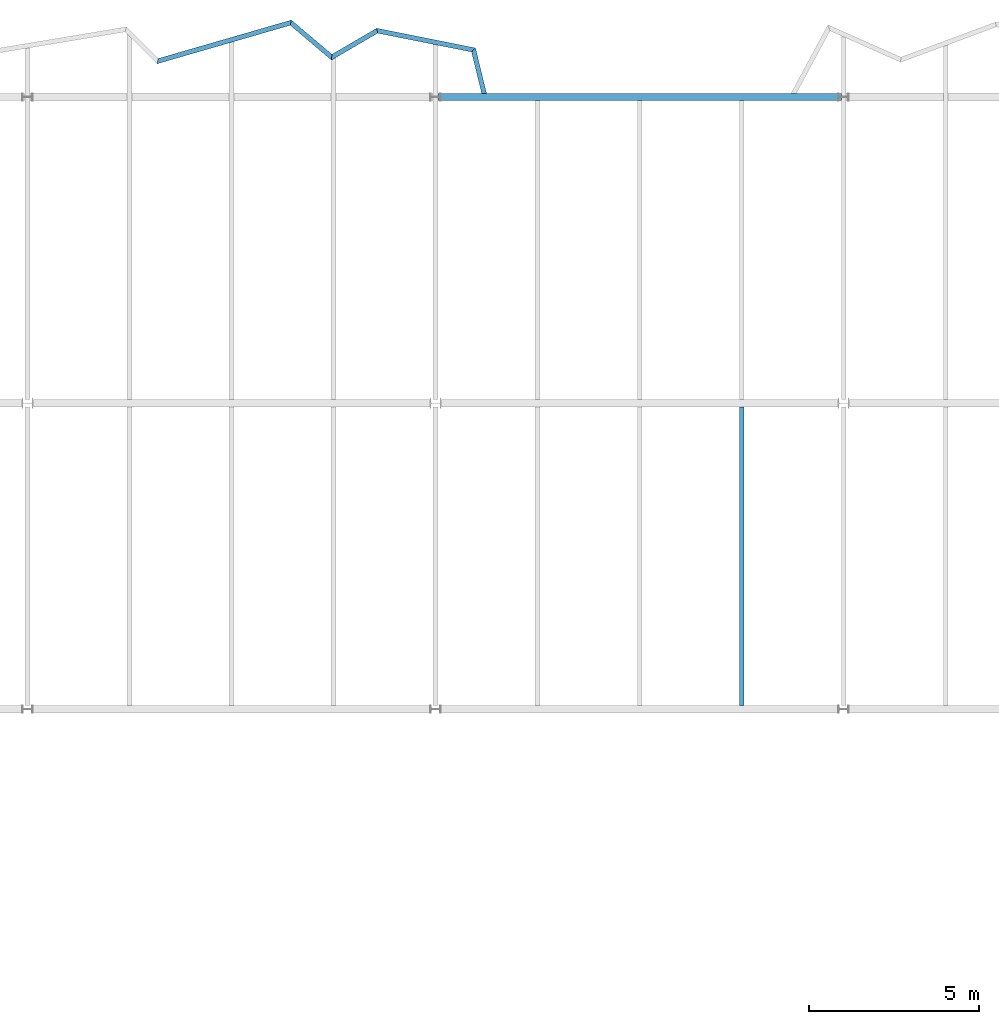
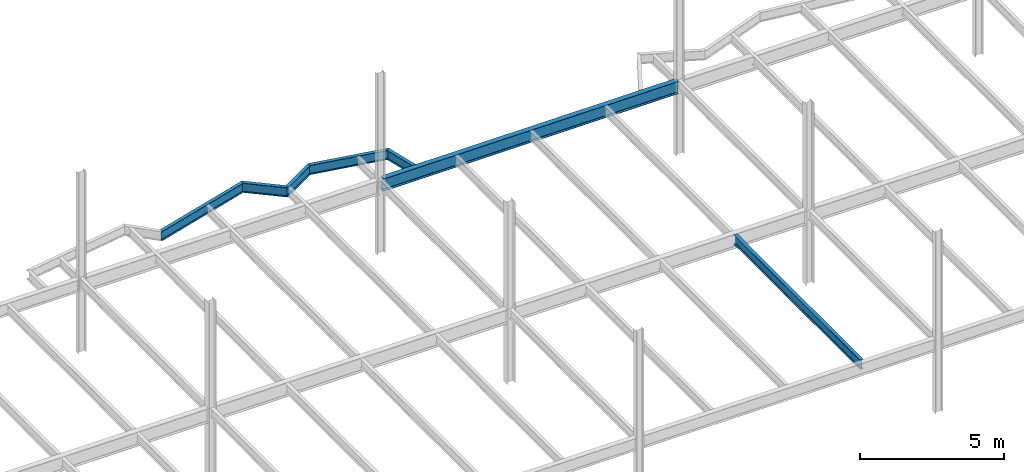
# One storey, part 7 of 23: 7 beams.
"""IFC2X3 building model written with IfcOpenShell, lengths in millimetres."""

from ifc_helpers import new_model, si_unit, origin, place, context, project, spatial, faceted_brep, material, element, save


model = new_model("IFC2X3")

# Units and contexts
context_of_model = context(None, 3, precision=1e-05, world=origin())
ifc_project = project(units=[si_unit("LENGTHUNIT", "METRE", prefix="MILLI")], contexts=[context_of_model])

# Building, storey
building = spatial("IfcBuilding", under=ifc_project, Name="Building", CompositionType="ELEMENT")
storey = spatial("IfcBuildingStorey", under=building, Name="FL5-FRM", CompositionType="ELEMENT")

# Beams
ifc_material_1 = material(Name="A992")
beam_1_placement = place(None, origin())
element("IfcBeam", 1, at=beam_1_placement, inside=storey, material=ifc_material_1, Name="Column403", context=context_of_model, shape_type="Brep", body=[
    faceted_brep([(-35930.0, 35895.5, 17345.0), (-35930.0, 36104.5, 17345.0), (-24070.0, 36104.5, 17345.0), (-24070.0, 35895.5, 17345.0), (-35930.0, 36104.5, 17358.3), (-24070.0, 36104.5, 17358.3), (-35930.0, 36017.4, 17358.3), (-24070.0, 36017.4, 17358.3), (-35930.0, 36014.2, 17358.7), (-24070.0, 36014.2, 17358.7), (-35930.0, 36011.1, 17360.0), (-24070.0, 36011.1, 17360.0), (-35930.0, 36008.5, 17362.0), (-24070.0, 36008.5, 17362.0), (-35930.0, 36006.5, 17364.7), (-24070.0, 36006.5, 17364.7), (-35930.0, 36005.2, 17367.7), (-24070.0, 36005.2, 17367.7), (-35930.0, 36004.8, 17371.0), (-24070.0, 36004.8, 17371.0), (-35930.0, 36004.8, 17847.0), (-24070.0, 36004.8, 17847.0), (-35930.0, 36005.2, 17850.3), (-24070.0, 36005.2, 17850.3), (-35930.0, 36006.5, 17853.3), (-24070.0, 36006.5, 17853.3), (-35930.0, 36008.5, 17856.0), (-24070.0, 36008.5, 17856.0), (-35930.0, 36011.1, 17858.0), (-24070.0, 36011.1, 17858.0), (-35930.0, 36014.2, 17859.3), (-24070.0, 36014.2, 17859.3), (-35930.0, 36017.4, 17859.7), (-24070.0, 36017.4, 17859.7), (-35930.0, 36104.5, 17859.7), (-24070.0, 36104.5, 17859.7), (-35930.0, 36104.5, 17873.0), (-24070.0, 36104.5, 17873.0), (-35930.0, 35895.5, 17873.0), (-24070.0, 35895.5, 17873.0), (-35930.0, 35895.5, 17859.7), (-24070.0, 35895.5, 17859.7), (-35930.0, 35982.6, 17859.7), (-24070.0, 35982.6, 17859.7), (-35930.0, 35985.8, 17859.3), (-24070.0, 35985.8, 17859.3), (-35930.0, 35988.9, 17858.0), (-24070.0, 35988.9, 17858.0), (-35930.0, 35991.5, 17856.0), (-24070.0, 35991.5, 17856.0), (-35930.0, 35993.5, 17853.3), (-24070.0, 35993.5, 17853.3), (-35930.0, 35994.8, 17850.3), (-24070.0, 35994.8, 17850.3), (-35930.0, 35995.3, 17847.0), (-24070.0, 35995.3, 17847.0), (-35930.0, 35995.3, 17371.0), (-24070.0, 35995.3, 17371.0), (-35930.0, 35994.8, 17367.7), (-24070.0, 35994.8, 17367.7), (-35930.0, 35993.5, 17364.7), (-24070.0, 35993.5, 17364.7), (-35930.0, 35991.5, 17362.0), (-24070.0, 35991.5, 17362.0), (-35930.0, 35988.9, 17360.0), (-24070.0, 35988.9, 17360.0), (-35930.0, 35985.8, 17358.7), (-24070.0, 35985.8, 17358.7), (-35930.0, 35982.6, 17358.3), (-24070.0, 35982.6, 17358.3), (-35930.0, 35895.5, 17358.3), (-24070.0, 35895.5, 17358.3)], [[[0, 1, 2, 3]], [[1, 4, 5, 2]], [[4, 6, 7, 5]], [[6, 8, 9, 7]], [[8, 10, 11, 9]], [[10, 12, 13, 11]], [[12, 14, 15, 13]], [[14, 16, 17, 15]], [[16, 18, 19, 17]], [[18, 20, 21, 19]], [[20, 22, 23, 21]], [[22, 24, 25, 23]], [[24, 26, 27, 25]], [[26, 28, 29, 27]], [[28, 30, 31, 29]], [[30, 32, 33, 31]], [[32, 34, 35, 33]], [[34, 36, 37, 35]], [[36, 38, 39, 37]], [[38, 40, 41, 39]], [[40, 42, 43, 41]], [[42, 44, 45, 43]], [[44, 46, 47, 45]], [[46, 48, 49, 47]], [[48, 50, 51, 49]], [[50, 52, 53, 51]], [[52, 54, 55, 53]], [[54, 56, 57, 55]], [[56, 58, 59, 57]], [[58, 60, 61, 59]], [[60, 62, 63, 61]], [[62, 64, 65, 63]], [[64, 66, 67, 65]], [[66, 68, 69, 67]], [[68, 70, 71, 69]], [[70, 0, 3, 71]], [[0, 70, 68, 66, 64, 62, 60, 58, 56, 54, 52, 50, 48, 46, 44, 42, 40, 38, 36, 34, 32, 30, 28, 26, 24, 22, 20, 18, 16, 14, 12, 10, 8, 6, 4, 1]], [[3, 2, 5, 7, 9, 11, 13, 15, 17, 19, 21, 23, 25, 27, 29, 31, 33, 35, 37, 39, 41, 43, 45, 47, 49, 51, 53, 55, 57, 59, 61, 63, 65, 67, 69, 71]]]),
])
ifc_material_2 = material(Name="A992")
beam_2_placement = place(None, origin())
element("IfcBeam", 2, at=beam_2_placement, inside=storey, material=ifc_material_2, Name="B288", context=context_of_model, shape_type="Brep", body=[
    faceted_brep([(-26930.0, 18104.5, 17474.0), (-27070.0, 18104.5, 17474.0), (-27070.0, 26885.5, 17474.0), (-26930.0, 26885.5, 17474.0), (-27070.0, 18104.5, 17482.8), (-27070.0, 26885.5, 17482.8), (-27013.4, 18104.5, 17482.8), (-27013.4, 26885.5, 17482.8), (-27010.8, 18104.5, 17483.1), (-27010.8, 26885.5, 17483.1), (-27008.3, 18104.5, 17484.2), (-27008.3, 26885.5, 17484.2), (-27006.2, 18104.5, 17485.8), (-27006.2, 26885.5, 17485.8), (-27004.6, 18104.5, 17487.9), (-27004.6, 26885.5, 17487.9), (-27003.5, 18104.5, 17490.4), (-27003.5, 26885.5, 17490.4), (-27003.2, 18104.5, 17493.0), (-27003.2, 26885.5, 17493.0), (-27003.2, 18104.5, 17854.0), (-27003.2, 26885.5, 17854.0), (-27003.5, 18104.5, 17856.6), (-27003.5, 26885.5, 17856.6), (-27004.6, 18104.5, 17859.1), (-27004.6, 26885.5, 17859.1), (-27006.2, 18104.5, 17861.2), (-27006.2, 26885.5, 17861.2), (-27008.3, 18104.5, 17862.8), (-27008.3, 26885.5, 17862.8), (-27010.8, 18104.5, 17863.9), (-27010.8, 26885.5, 17863.9), (-27013.4, 18104.5, 17864.2), (-27013.4, 26885.5, 17864.2), (-27070.0, 18104.5, 17864.2), (-27070.0, 26885.5, 17864.2), (-27070.0, 18104.5, 17873.0), (-27070.0, 26885.5, 17873.0), (-26930.0, 18104.5, 17873.0), (-26930.0, 26885.5, 17873.0), (-26930.0, 18104.5, 17864.2), (-26930.0, 26885.5, 17864.2), (-26986.6, 18104.5, 17864.2), (-26986.6, 26885.5, 17864.2), (-26989.2, 18104.5, 17863.9), (-26989.2, 26885.5, 17863.9), (-26991.7, 18104.5, 17862.8), (-26991.7, 26885.5, 17862.8), (-26993.8, 18104.5, 17861.2), (-26993.8, 26885.5, 17861.2), (-26995.4, 18104.5, 17859.1), (-26995.4, 26885.5, 17859.1), (-26996.5, 18104.5, 17856.6), (-26996.5, 26885.5, 17856.6), (-26996.8, 18104.5, 17854.0), (-26996.8, 26885.5, 17854.0), (-26996.8, 18104.5, 17493.0), (-26996.8, 26885.5, 17493.0), (-26996.5, 18104.5, 17490.4), (-26996.5, 26885.5, 17490.4), (-26995.4, 18104.5, 17487.9), (-26995.4, 26885.5, 17487.9), (-26993.8, 18104.5, 17485.8), (-26993.8, 26885.5, 17485.8), (-26991.7, 18104.5, 17484.2), (-26991.7, 26885.5, 17484.2), (-26989.2, 18104.5, 17483.1), (-26989.2, 26885.5, 17483.1), (-26986.6, 18104.5, 17482.8), (-26986.6, 26885.5, 17482.8), (-26930.0, 18104.5, 17482.8), (-26930.0, 26885.5, 17482.8)], [[[0, 1, 2, 3]], [[1, 4, 5, 2]], [[4, 6, 7, 5]], [[6, 8, 9, 7]], [[8, 10, 11, 9]], [[10, 12, 13, 11]], [[12, 14, 15, 13]], [[14, 16, 17, 15]], [[16, 18, 19, 17]], [[18, 20, 21, 19]], [[20, 22, 23, 21]], [[22, 24, 25, 23]], [[24, 26, 27, 25]], [[26, 28, 29, 27]], [[28, 30, 31, 29]], [[30, 32, 33, 31]], [[32, 34, 35, 33]], [[34, 36, 37, 35]], [[36, 38, 39, 37]], [[38, 40, 41, 39]], [[40, 42, 43, 41]], [[42, 44, 45, 43]], [[44, 46, 47, 45]], [[46, 48, 49, 47]], [[48, 50, 51, 49]], [[50, 52, 53, 51]], [[52, 54, 55, 53]], [[54, 56, 57, 55]], [[56, 58, 59, 57]], [[58, 60, 61, 59]], [[60, 62, 63, 61]], [[62, 64, 65, 63]], [[64, 66, 67, 65]], [[66, 68, 69, 67]], [[68, 70, 71, 69]], [[70, 0, 3, 71]], [[0, 70, 68, 66, 64, 62, 60, 58, 56, 54, 52, 50, 48, 46, 44, 42, 40, 38, 36, 34, 32, 30, 28, 26, 24, 22, 20, 18, 16, 14, 12, 10, 8, 6, 4, 1]], [[3, 2, 5, 7, 9, 11, 13, 15, 17, 19, 21, 23, 25, 27, 29, 31, 33, 35, 37, 39, 41, 43, 45, 47, 49, 51, 53, 55, 57, 59, 61, 63, 65, 67, 69, 71]]]),
])
ifc_material_3 = material(Name="A992")
beam_3_placement = place(None, origin())
element("IfcBeam", 3, at=beam_3_placement, inside=storey, material=ifc_material_3, Name="B966", context=context_of_model, shape_type="Brep", body=[
    faceted_brep([(-44195.2, 36976.9, 17474.0), (-44154.7, 37134.4, 17474.0), (-40241.1, 38267.3, 17474.0), (-40274.2, 38112.0, 17474.0), (-44154.7, 37134.4, 17482.8), (-40241.1, 38267.3, 17482.8), (-44171.0, 37070.8, 17482.8), (-40254.5, 38204.5, 17482.8), (-44171.5, 37069.0, 17482.9), (-40254.9, 38202.7, 17482.9), (-44172.0, 37067.2, 17483.3), (-40255.2, 38201.0, 17483.3), (-44172.4, 37065.6, 17483.9), (-40255.6, 38199.4, 17483.9), (-44172.8, 37064.0, 17484.7), (-40255.9, 38197.9, 17484.7), (-44173.1, 37062.6, 17485.8), (-40256.2, 38196.5, 17485.8), (-44173.4, 37061.5, 17487.0), (-40256.4, 38195.4, 17487.0), (-44173.7, 37060.5, 17488.4), (-40256.6, 38194.4, 17488.4), (-44173.9, 37059.9, 17489.8), (-40256.8, 38193.7, 17489.8), (-44174.0, 37059.4, 17491.4), (-40256.9, 38193.3, 17491.4), (-44174.0, 37059.3, 17493.0), (-40256.9, 38193.2, 17493.0), (-44174.0, 37059.3, 17854.0), (-40256.9, 38193.2, 17854.0), (-44174.0, 37059.4, 17855.6), (-40256.9, 38193.3, 17855.6), (-44173.9, 37059.9, 17857.2), (-40256.8, 38193.7, 17857.2), (-44173.7, 37060.5, 17858.6), (-40256.6, 38194.4, 17858.6), (-44173.4, 37061.5, 17860.0), (-40256.4, 38195.4, 17860.0), (-44173.1, 37062.6, 17861.2), (-40256.2, 38196.5, 17861.2), (-44172.8, 37064.0, 17862.3), (-40255.9, 38197.9, 17862.3), (-44172.4, 37065.6, 17863.1), (-40255.6, 38199.4, 17863.1), (-44172.0, 37067.2, 17863.7), (-40255.2, 38201.0, 17863.7), (-44171.5, 37069.0, 17864.1), (-40254.9, 38202.7, 17864.1), (-44171.0, 37070.8, 17864.2), (-40254.5, 38204.5, 17864.2), (-44154.7, 37134.4, 17864.2), (-40241.1, 38267.3, 17864.2), (-44154.7, 37134.4, 17873.0), (-40241.1, 38267.3, 17873.0), (-44195.2, 36976.9, 17873.0), (-40274.2, 38112.0, 17873.0), (-44195.2, 36976.9, 17864.2), (-40274.2, 38112.0, 17864.2), (-44178.8, 37040.6, 17864.2), (-40260.8, 38174.8, 17864.2), (-44178.3, 37042.4, 17864.1), (-40260.5, 38176.5, 17864.1), (-44177.9, 37044.2, 17863.7), (-40260.1, 38178.3, 17863.7), (-44177.5, 37045.8, 17863.1), (-40259.7, 38179.9, 17863.1), (-44177.1, 37047.3, 17862.3), (-40259.4, 38181.4, 17862.3), (-44176.7, 37048.7, 17861.2), (-40259.1, 38182.8, 17861.2), (-44176.4, 37049.9, 17860.0), (-40258.9, 38183.9, 17860.0), (-44176.2, 37050.8, 17858.6), (-40258.7, 38184.8, 17858.6), (-44176.0, 37051.5, 17857.2), (-40258.5, 38185.5, 17857.2), (-44175.9, 37051.9, 17855.6), (-40258.5, 38185.9, 17855.6), (-44175.9, 37052.1, 17854.0), (-40258.4, 38186.1, 17854.0), (-44175.9, 37052.1, 17493.0), (-40258.4, 38186.1, 17493.0), (-44175.9, 37051.9, 17491.4), (-40258.5, 38185.9, 17491.4), (-44176.0, 37051.5, 17489.8), (-40258.5, 38185.5, 17489.8), (-44176.2, 37050.8, 17488.4), (-40258.7, 38184.8, 17488.4), (-44176.4, 37049.9, 17487.0), (-40258.9, 38183.9, 17487.0), (-44176.7, 37048.7, 17485.8), (-40259.1, 38182.8, 17485.8), (-44177.1, 37047.3, 17484.7), (-40259.4, 38181.4, 17484.7), (-44177.5, 37045.8, 17483.9), (-40259.7, 38179.9, 17483.9), (-44177.9, 37044.2, 17483.3), (-40260.1, 38178.3, 17483.3), (-44178.3, 37042.4, 17482.9), (-40260.5, 38176.5, 17482.9), (-44178.8, 37040.6, 17482.8), (-40260.8, 38174.8, 17482.8), (-44195.2, 36976.9, 17482.8), (-40274.2, 38112.0, 17482.8)], [[[0, 1, 2, 3]], [[1, 4, 5, 2]], [[4, 6, 7, 5]], [[6, 8, 9, 7]], [[8, 10, 11, 9]], [[10, 12, 13, 11]], [[12, 14, 15, 13]], [[14, 16, 17, 15]], [[16, 18, 19, 17]], [[18, 20, 21, 19]], [[20, 22, 23, 21]], [[22, 24, 25, 23]], [[24, 26, 27, 25]], [[26, 28, 29, 27]], [[28, 30, 31, 29]], [[30, 32, 33, 31]], [[32, 34, 35, 33]], [[34, 36, 37, 35]], [[36, 38, 39, 37]], [[38, 40, 41, 39]], [[40, 42, 43, 41]], [[42, 44, 45, 43]], [[44, 46, 47, 45]], [[46, 48, 49, 47]], [[48, 50, 51, 49]], [[50, 52, 53, 51]], [[52, 54, 55, 53]], [[54, 56, 57, 55]], [[56, 58, 59, 57]], [[58, 60, 61, 59]], [[60, 62, 63, 61]], [[62, 64, 65, 63]], [[64, 66, 67, 65]], [[66, 68, 69, 67]], [[68, 70, 71, 69]], [[70, 72, 73, 71]], [[72, 74, 75, 73]], [[74, 76, 77, 75]], [[76, 78, 79, 77]], [[78, 80, 81, 79]], [[80, 82, 83, 81]], [[82, 84, 85, 83]], [[84, 86, 87, 85]], [[86, 88, 89, 87]], [[88, 90, 91, 89]], [[90, 92, 93, 91]], [[92, 94, 95, 93]], [[94, 96, 97, 95]], [[96, 98, 99, 97]], [[98, 100, 101, 99]], [[100, 102, 103, 101]], [[102, 0, 3, 103]], [[0, 102, 100, 98, 96, 94, 92, 90, 88, 86, 84, 82, 80, 78, 76, 74, 72, 70, 68, 66, 64, 62, 60, 58, 56, 54, 52, 50, 48, 46, 44, 42, 40, 38, 36, 34, 32, 30, 28, 26, 24, 22, 20, 18, 16, 14, 12, 10, 8, 6, 4, 1]], [[3, 2, 5, 7, 9, 11, 13, 15, 17, 19, 21, 23, 25, 27, 29, 31, 33, 35, 37, 39, 41, 43, 45, 47, 49, 51, 53, 55, 57, 59, 61, 63, 65, 67, 69, 71, 73, 75, 77, 79, 81, 83, 85, 87, 89, 91, 93, 95, 97, 99, 101, 103]]]),
])
ifc_material_4 = material(Name="A992")
beam_4_placement = place(None, origin())
element("IfcBeam", 4, at=beam_4_placement, inside=storey, material=ifc_material_4, Name="B967", context=context_of_model, shape_type="Brep", body=[
    faceted_brep([(-40274.2, 38112.0, 17474.0), (-40241.1, 38267.3, 17474.0), (-39047.8, 37257.6, 17474.0), (-39062.7, 37086.8, 17474.0), (-40241.1, 38267.3, 17482.8), (-39047.8, 37257.6, 17482.8), (-40254.5, 38204.5, 17482.8), (-39053.9, 37188.6, 17482.8), (-40254.9, 38202.7, 17482.9), (-39054.0, 37186.6, 17482.9), (-40255.2, 38201.0, 17483.3), (-39054.2, 37184.7, 17483.3), (-40255.6, 38199.4, 17483.9), (-39054.3, 37183.0, 17483.9), (-40255.9, 38197.9, 17484.7), (-39054.5, 37181.3, 17484.7), (-40256.2, 38196.5, 17485.8), (-39054.6, 37179.8, 17485.8), (-40256.4, 38195.4, 17487.0), (-39054.7, 37178.5, 17487.0), (-40256.6, 38194.4, 17488.4), (-39054.8, 37177.5, 17488.3), (-40256.8, 38193.7, 17489.8), (-39054.9, 37176.8, 17489.8), (-40256.9, 38193.3, 17491.4), (-39054.9, 37176.3, 17491.4), (-40256.9, 38193.2, 17493.0), (-39054.9, 37176.1, 17493.0), (-40256.9, 38193.2, 17854.0), (-39054.9, 37176.1, 17854.0), (-40256.9, 38193.3, 17855.6), (-39054.9, 37176.3, 17855.6), (-40256.8, 38193.7, 17857.2), (-39054.9, 37176.8, 17857.2), (-40256.6, 38194.4, 17858.6), (-39054.8, 37177.5, 17858.7), (-40256.4, 38195.4, 17860.0), (-39054.7, 37178.5, 17860.0), (-40256.2, 38196.5, 17861.2), (-39054.6, 37179.8, 17861.2), (-40255.9, 38197.9, 17862.3), (-39054.5, 37181.3, 17862.3), (-40255.6, 38199.4, 17863.1), (-39054.3, 37183.0, 17863.1), (-40255.2, 38201.0, 17863.7), (-39054.2, 37184.7, 17863.7), (-40254.9, 38202.7, 17864.1), (-39054.0, 37186.6, 17864.1), (-40254.5, 38204.5, 17864.2), (-39053.9, 37188.6, 17864.2), (-40241.1, 38267.3, 17864.2), (-39047.8, 37257.6, 17864.2), (-40241.1, 38267.3, 17873.0), (-39047.8, 37257.6, 17873.0), (-40274.2, 38112.0, 17873.0), (-39062.7, 37086.8, 17873.0), (-40274.2, 38112.0, 17864.2), (-39062.7, 37086.8, 17864.2), (-40260.8, 38174.8, 17864.2), (-39056.7, 37155.9, 17864.2), (-40260.5, 38176.5, 17864.1), (-39056.5, 37157.8, 17864.1), (-40260.1, 38178.3, 17863.7), (-39056.4, 37159.7, 17863.7), (-40259.7, 38179.9, 17863.1), (-39056.2, 37161.5, 17863.1), (-40259.4, 38181.4, 17862.3), (-39056.1, 37163.2, 17862.3), (-40259.1, 38182.8, 17861.2), (-39055.9, 37164.7, 17861.2), (-40258.9, 38183.9, 17860.0), (-39055.8, 37165.9, 17860.0), (-40258.7, 38184.8, 17858.6), (-39055.7, 37167.0, 17858.7), (-40258.5, 38185.5, 17857.2), (-39055.7, 37167.7, 17857.2), (-40258.5, 38185.9, 17855.6), (-39055.6, 37168.2, 17855.6), (-40258.4, 38186.1, 17854.0), (-39055.6, 37168.3, 17854.0), (-40258.4, 38186.1, 17493.0), (-39055.6, 37168.3, 17493.0), (-40258.5, 38185.9, 17491.4), (-39055.6, 37168.2, 17491.4), (-40258.5, 38185.5, 17489.8), (-39055.7, 37167.7, 17489.8), (-40258.7, 38184.8, 17488.4), (-39055.7, 37167.0, 17488.3), (-40258.9, 38183.9, 17487.0), (-39055.8, 37165.9, 17487.0), (-40259.1, 38182.8, 17485.8), (-39055.9, 37164.7, 17485.8), (-40259.4, 38181.4, 17484.7), (-39056.1, 37163.2, 17484.7), (-40259.7, 38179.9, 17483.9), (-39056.2, 37161.5, 17483.9), (-40260.1, 38178.3, 17483.3), (-39056.4, 37159.7, 17483.3), (-40260.5, 38176.5, 17482.9), (-39056.5, 37157.8, 17482.9), (-40260.8, 38174.8, 17482.8), (-39056.7, 37155.9, 17482.8), (-40274.2, 38112.0, 17482.8), (-39062.7, 37086.8, 17482.8)], [[[0, 1, 2, 3]], [[1, 4, 5, 2]], [[4, 6, 7, 5]], [[6, 8, 9, 7]], [[8, 10, 11, 9]], [[10, 12, 13, 11]], [[12, 14, 15, 13]], [[14, 16, 17, 15]], [[16, 18, 19, 17]], [[18, 20, 21, 19]], [[20, 22, 23, 21]], [[22, 24, 25, 23]], [[24, 26, 27, 25]], [[26, 28, 29, 27]], [[28, 30, 31, 29]], [[30, 32, 33, 31]], [[32, 34, 35, 33]], [[34, 36, 37, 35]], [[36, 38, 39, 37]], [[38, 40, 41, 39]], [[40, 42, 43, 41]], [[42, 44, 45, 43]], [[44, 46, 47, 45]], [[46, 48, 49, 47]], [[48, 50, 51, 49]], [[50, 52, 53, 51]], [[52, 54, 55, 53]], [[54, 56, 57, 55]], [[56, 58, 59, 57]], [[58, 60, 61, 59]], [[60, 62, 63, 61]], [[62, 64, 65, 63]], [[64, 66, 67, 65]], [[66, 68, 69, 67]], [[68, 70, 71, 69]], [[70, 72, 73, 71]], [[72, 74, 75, 73]], [[74, 76, 77, 75]], [[76, 78, 79, 77]], [[78, 80, 81, 79]], [[80, 82, 83, 81]], [[82, 84, 85, 83]], [[84, 86, 87, 85]], [[86, 88, 89, 87]], [[88, 90, 91, 89]], [[90, 92, 93, 91]], [[92, 94, 95, 93]], [[94, 96, 97, 95]], [[96, 98, 99, 97]], [[98, 100, 101, 99]], [[100, 102, 103, 101]], [[102, 0, 3, 103]], [[0, 102, 100, 98, 96, 94, 92, 90, 88, 86, 84, 82, 80, 78, 76, 74, 72, 70, 68, 66, 64, 62, 60, 58, 56, 54, 52, 50, 48, 46, 44, 42, 40, 38, 36, 34, 32, 30, 28, 26, 24, 22, 20, 18, 16, 14, 12, 10, 8, 6, 4, 1]], [[3, 2, 5, 7, 9, 11, 13, 15, 17, 19, 21, 23, 25, 27, 29, 31, 33, 35, 37, 39, 41, 43, 45, 47, 49, 51, 53, 55, 57, 59, 61, 63, 65, 67, 69, 71, 73, 75, 77, 79, 81, 83, 85, 87, 89, 91, 93, 95, 97, 99, 101, 103]]]),
])
ifc_material_5 = material(Name="A992")
beam_5_placement = place(None, origin())
element("IfcBeam", 5, at=beam_5_placement, inside=storey, material=ifc_material_5, Name="B968", context=context_of_model, shape_type="Brep", body=[
    faceted_brep([(-39062.7, 37086.8, 17474.0), (-39047.8, 37257.6, 17474.0), (-37728.6, 38027.2, 17474.0), (-37703.9, 37879.5, 17474.0), (-39047.8, 37257.6, 17482.8), (-37728.6, 38027.2, 17482.8), (-39053.9, 37188.6, 17482.8), (-37718.6, 37967.5, 17482.8), (-39054.0, 37186.6, 17482.9), (-37718.3, 37965.8, 17482.9), (-39054.2, 37184.7, 17483.3), (-37718.0, 37964.2, 17483.3), (-39054.3, 37183.0, 17483.9), (-37717.8, 37962.6, 17483.9), (-39054.5, 37181.3, 17484.7), (-37717.5, 37961.2, 17484.7), (-39054.6, 37179.8, 17485.8), (-37717.3, 37959.9, 17485.8), (-39054.7, 37178.5, 17487.0), (-37717.1, 37958.8, 17487.0), (-39054.8, 37177.5, 17488.3), (-37717.0, 37957.9, 17488.4), (-39054.9, 37176.8, 17489.8), (-37716.9, 37957.3, 17489.8), (-39054.9, 37176.3, 17491.4), (-37716.8, 37956.9, 17491.4), (-39054.9, 37176.1, 17493.0), (-37716.8, 37956.7, 17493.0), (-39054.9, 37176.1, 17854.0), (-37716.8, 37956.7, 17854.0), (-39054.9, 37176.3, 17855.6), (-37716.8, 37956.9, 17855.6), (-39054.9, 37176.8, 17857.2), (-37716.9, 37957.3, 17857.2), (-39054.8, 37177.5, 17858.7), (-37717.0, 37957.9, 17858.6), (-39054.7, 37178.5, 17860.0), (-37717.1, 37958.8, 17860.0), (-39054.6, 37179.8, 17861.2), (-37717.3, 37959.9, 17861.2), (-39054.5, 37181.3, 17862.3), (-37717.5, 37961.2, 17862.3), (-39054.3, 37183.0, 17863.1), (-37717.8, 37962.6, 17863.1), (-39054.2, 37184.7, 17863.7), (-37718.0, 37964.2, 17863.7), (-39054.0, 37186.6, 17864.1), (-37718.3, 37965.8, 17864.1), (-39053.9, 37188.6, 17864.2), (-37718.6, 37967.5, 17864.2), (-39047.8, 37257.6, 17864.2), (-37728.6, 38027.2, 17864.2), (-39047.8, 37257.6, 17873.0), (-37728.6, 38027.2, 17873.0), (-39062.7, 37086.8, 17873.0), (-37703.9, 37879.5, 17873.0), (-39062.7, 37086.8, 17864.2), (-37703.9, 37879.5, 17864.2), (-39056.7, 37155.9, 17864.2), (-37713.9, 37939.2, 17864.2), (-39056.5, 37157.8, 17864.1), (-37714.2, 37940.9, 17864.1), (-39056.4, 37159.7, 17863.7), (-37714.4, 37942.5, 17863.7), (-39056.2, 37161.5, 17863.1), (-37714.7, 37944.1, 17863.1), (-39056.1, 37163.2, 17862.3), (-37714.9, 37945.5, 17862.3), (-39055.9, 37164.7, 17861.2), (-37715.1, 37946.8, 17861.2), (-39055.8, 37165.9, 17860.0), (-37715.3, 37947.9, 17860.0), (-39055.7, 37167.0, 17858.7), (-37715.5, 37948.8, 17858.6), (-39055.7, 37167.7, 17857.2), (-37715.6, 37949.4, 17857.2), (-39055.6, 37168.2, 17855.6), (-37715.6, 37949.8, 17855.6), (-39055.6, 37168.3, 17854.0), (-37715.7, 37950.0, 17854.0), (-39055.6, 37168.3, 17493.0), (-37715.7, 37950.0, 17493.0), (-39055.6, 37168.2, 17491.4), (-37715.6, 37949.8, 17491.4), (-39055.7, 37167.7, 17489.8), (-37715.6, 37949.4, 17489.8), (-39055.7, 37167.0, 17488.3), (-37715.5, 37948.8, 17488.4), (-39055.8, 37165.9, 17487.0), (-37715.3, 37947.9, 17487.0), (-39055.9, 37164.7, 17485.8), (-37715.1, 37946.8, 17485.8), (-39056.1, 37163.2, 17484.7), (-37714.9, 37945.5, 17484.7), (-39056.2, 37161.5, 17483.9), (-37714.7, 37944.1, 17483.9), (-39056.4, 37159.7, 17483.3), (-37714.4, 37942.5, 17483.3), (-39056.5, 37157.8, 17482.9), (-37714.2, 37940.9, 17482.9), (-39056.7, 37155.9, 17482.8), (-37713.9, 37939.2, 17482.8), (-39062.7, 37086.8, 17482.8), (-37703.9, 37879.5, 17482.8)], [[[0, 1, 2, 3]], [[1, 4, 5, 2]], [[4, 6, 7, 5]], [[6, 8, 9, 7]], [[8, 10, 11, 9]], [[10, 12, 13, 11]], [[12, 14, 15, 13]], [[14, 16, 17, 15]], [[16, 18, 19, 17]], [[18, 20, 21, 19]], [[20, 22, 23, 21]], [[22, 24, 25, 23]], [[24, 26, 27, 25]], [[26, 28, 29, 27]], [[28, 30, 31, 29]], [[30, 32, 33, 31]], [[32, 34, 35, 33]], [[34, 36, 37, 35]], [[36, 38, 39, 37]], [[38, 40, 41, 39]], [[40, 42, 43, 41]], [[42, 44, 45, 43]], [[44, 46, 47, 45]], [[46, 48, 49, 47]], [[48, 50, 51, 49]], [[50, 52, 53, 51]], [[52, 54, 55, 53]], [[54, 56, 57, 55]], [[56, 58, 59, 57]], [[58, 60, 61, 59]], [[60, 62, 63, 61]], [[62, 64, 65, 63]], [[64, 66, 67, 65]], [[66, 68, 69, 67]], [[68, 70, 71, 69]], [[70, 72, 73, 71]], [[72, 74, 75, 73]], [[74, 76, 77, 75]], [[76, 78, 79, 77]], [[78, 80, 81, 79]], [[80, 82, 83, 81]], [[82, 84, 85, 83]], [[84, 86, 87, 85]], [[86, 88, 89, 87]], [[88, 90, 91, 89]], [[90, 92, 93, 91]], [[92, 94, 95, 93]], [[94, 96, 97, 95]], [[96, 98, 99, 97]], [[98, 100, 101, 99]], [[100, 102, 103, 101]], [[102, 0, 3, 103]], [[0, 102, 100, 98, 96, 94, 92, 90, 88, 86, 84, 82, 80, 78, 76, 74, 72, 70, 68, 66, 64, 62, 60, 58, 56, 54, 52, 50, 48, 46, 44, 42, 40, 38, 36, 34, 32, 30, 28, 26, 24, 22, 20, 18, 16, 14, 12, 10, 8, 6, 4, 1]], [[3, 2, 5, 7, 9, 11, 13, 15, 17, 19, 21, 23, 25, 27, 29, 31, 33, 35, 37, 39, 41, 43, 45, 47, 49, 51, 53, 55, 57, 59, 61, 63, 65, 67, 69, 71, 73, 75, 77, 79, 81, 83, 85, 87, 89, 91, 93, 95, 97, 99, 101, 103]]]),
])
ifc_material_6 = material(Name="A992")
beam_6_placement = place(None, origin())
element("IfcBeam", 6, at=beam_6_placement, inside=storey, material=ifc_material_6, Name="B969", context=context_of_model, shape_type="Brep", body=[
    faceted_brep([(-37703.9, 37879.5, 17474.0), (-37728.6, 38027.2, 17474.0), (-34827.2, 37446.9, 17474.0), (-34942.2, 37327.2, 17474.0), (-37728.6, 38027.2, 17482.8), (-34827.2, 37446.9, 17482.8), (-37718.6, 37967.5, 17482.8), (-34873.7, 37398.5, 17482.8), (-37718.3, 37965.8, 17482.9), (-34875.0, 37397.1, 17482.9), (-37718.0, 37964.2, 17483.3), (-34876.3, 37395.8, 17483.3), (-37717.8, 37962.6, 17483.9), (-34877.5, 37394.6, 17483.9), (-37717.5, 37961.2, 17484.7), (-34878.6, 37393.4, 17484.7), (-37717.3, 37959.9, 17485.8), (-34879.6, 37392.3, 17485.8), (-37717.1, 37958.8, 17487.0), (-34880.5, 37391.5, 17487.0), (-37717.0, 37957.9, 17488.4), (-34881.2, 37390.7, 17488.4), (-37716.9, 37957.3, 17489.8), (-34881.7, 37390.2, 17489.8), (-37716.8, 37956.9, 17491.4), (-34882.0, 37389.9, 17491.4), (-37716.8, 37956.7, 17493.0), (-34882.1, 37389.8, 17493.0), (-37716.8, 37956.7, 17854.0), (-34882.1, 37389.8, 17854.0), (-37716.8, 37956.9, 17855.6), (-34882.0, 37389.9, 17855.6), (-37716.9, 37957.3, 17857.2), (-34881.7, 37390.2, 17857.2), (-37717.0, 37957.9, 17858.6), (-34881.2, 37390.7, 17858.6), (-37717.1, 37958.8, 17860.0), (-34880.5, 37391.5, 17860.0), (-37717.3, 37959.9, 17861.2), (-34879.6, 37392.3, 17861.2), (-37717.5, 37961.2, 17862.3), (-34878.6, 37393.4, 17862.3), (-37717.8, 37962.6, 17863.1), (-34877.5, 37394.6, 17863.1), (-37718.0, 37964.2, 17863.7), (-34876.3, 37395.8, 17863.7), (-37718.3, 37965.8, 17864.1), (-34875.0, 37397.1, 17864.1), (-37718.6, 37967.5, 17864.2), (-34873.7, 37398.5, 17864.2), (-37728.6, 38027.2, 17864.2), (-34827.2, 37446.9, 17864.2), (-37728.6, 38027.2, 17873.0), (-34827.2, 37446.9, 17873.0), (-37703.9, 37879.5, 17873.0), (-34942.2, 37327.2, 17873.0), (-37703.9, 37879.5, 17864.2), (-34942.2, 37327.2, 17864.2), (-37713.9, 37939.2, 17864.2), (-34895.7, 37375.6, 17864.2), (-37714.2, 37940.9, 17864.1), (-34894.4, 37376.9, 17864.1), (-37714.4, 37942.5, 17863.7), (-34893.1, 37378.3, 17863.7), (-37714.7, 37944.1, 17863.1), (-34891.9, 37379.5, 17863.1), (-37714.9, 37945.5, 17862.3), (-34890.8, 37380.7, 17862.3), (-37715.1, 37946.8, 17861.2), (-34889.8, 37381.7, 17861.2), (-37715.3, 37947.9, 17860.0), (-34889.0, 37382.6, 17860.0), (-37715.5, 37948.8, 17858.6), (-34888.3, 37383.3, 17858.6), (-37715.6, 37949.4, 17857.2), (-34887.8, 37383.9, 17857.2), (-37715.6, 37949.8, 17855.6), (-34887.5, 37384.2, 17855.6), (-37715.7, 37950.0, 17854.0), (-34887.3, 37384.3, 17854.0), (-37715.7, 37950.0, 17493.0), (-34887.3, 37384.3, 17493.0), (-37715.6, 37949.8, 17491.4), (-34887.5, 37384.2, 17491.4), (-37715.6, 37949.4, 17489.8), (-34887.8, 37383.9, 17489.8), (-37715.5, 37948.8, 17488.4), (-34888.3, 37383.3, 17488.4), (-37715.3, 37947.9, 17487.0), (-34889.0, 37382.6, 17487.0), (-37715.1, 37946.8, 17485.8), (-34889.8, 37381.7, 17485.8), (-37714.9, 37945.5, 17484.7), (-34890.8, 37380.7, 17484.7), (-37714.7, 37944.1, 17483.9), (-34891.9, 37379.5, 17483.9), (-37714.4, 37942.5, 17483.3), (-34893.1, 37378.3, 17483.3), (-37714.2, 37940.9, 17482.9), (-34894.4, 37376.9, 17482.9), (-37713.9, 37939.2, 17482.8), (-34895.7, 37375.6, 17482.8), (-37703.9, 37879.5, 17482.8), (-34942.2, 37327.2, 17482.8)], [[[0, 1, 2, 3]], [[1, 4, 5, 2]], [[4, 6, 7, 5]], [[6, 8, 9, 7]], [[8, 10, 11, 9]], [[10, 12, 13, 11]], [[12, 14, 15, 13]], [[14, 16, 17, 15]], [[16, 18, 19, 17]], [[18, 20, 21, 19]], [[20, 22, 23, 21]], [[22, 24, 25, 23]], [[24, 26, 27, 25]], [[26, 28, 29, 27]], [[28, 30, 31, 29]], [[30, 32, 33, 31]], [[32, 34, 35, 33]], [[34, 36, 37, 35]], [[36, 38, 39, 37]], [[38, 40, 41, 39]], [[40, 42, 43, 41]], [[42, 44, 45, 43]], [[44, 46, 47, 45]], [[46, 48, 49, 47]], [[48, 50, 51, 49]], [[50, 52, 53, 51]], [[52, 54, 55, 53]], [[54, 56, 57, 55]], [[56, 58, 59, 57]], [[58, 60, 61, 59]], [[60, 62, 63, 61]], [[62, 64, 65, 63]], [[64, 66, 67, 65]], [[66, 68, 69, 67]], [[68, 70, 71, 69]], [[70, 72, 73, 71]], [[72, 74, 75, 73]], [[74, 76, 77, 75]], [[76, 78, 79, 77]], [[78, 80, 81, 79]], [[80, 82, 83, 81]], [[82, 84, 85, 83]], [[84, 86, 87, 85]], [[86, 88, 89, 87]], [[88, 90, 91, 89]], [[90, 92, 93, 91]], [[92, 94, 95, 93]], [[94, 96, 97, 95]], [[96, 98, 99, 97]], [[98, 100, 101, 99]], [[100, 102, 103, 101]], [[102, 0, 3, 103]], [[0, 102, 100, 98, 96, 94, 92, 90, 88, 86, 84, 82, 80, 78, 76, 74, 72, 70, 68, 66, 64, 62, 60, 58, 56, 54, 52, 50, 48, 46, 44, 42, 40, 38, 36, 34, 32, 30, 28, 26, 24, 22, 20, 18, 16, 14, 12, 10, 8, 6, 4, 1]], [[3, 2, 5, 7, 9, 11, 13, 15, 17, 19, 21, 23, 25, 27, 29, 31, 33, 35, 37, 39, 41, 43, 45, 47, 49, 51, 53, 55, 57, 59, 61, 63, 65, 67, 69, 71, 73, 75, 77, 79, 81, 83, 85, 87, 89, 91, 93, 95, 97, 99, 101, 103]]]),
])
ifc_material_7 = material(Name="A992")
beam_7_placement = place(None, origin())
element("IfcBeam", 7, at=beam_7_placement, inside=storey, material=ifc_material_7, Name="B970", context=context_of_model, shape_type="Brep", body=[
    faceted_brep([(-34942.2, 37327.2, 17474.0), (-34827.2, 37446.9, 17474.0), (-34500.7, 36104.5, 17474.0), (-34644.8, 36104.5, 17474.0), (-34827.2, 37446.9, 17482.8), (-34500.7, 36104.5, 17482.8), (-34873.7, 37398.5, 17482.8), (-34559.0, 36104.5, 17482.8), (-34874.9, 37397.3, 17482.9), (-34560.5, 36104.5, 17482.9), (-34876.1, 37396.1, 17483.2), (-34561.9, 36104.5, 17483.2), (-34877.2, 37394.9, 17483.7), (-34563.3, 36104.5, 17483.7), (-34878.2, 37393.8, 17484.4), (-34564.6, 36104.5, 17484.4), (-34879.2, 37392.8, 17485.3), (-34565.8, 36104.5, 17485.3), (-34880.0, 37391.9, 17486.3), (-34566.9, 36104.5, 17486.3), (-34880.8, 37391.2, 17487.5), (-34567.8, 36104.5, 17487.5), (-34881.3, 37390.6, 17488.8), (-34568.5, 36104.5, 17488.8), (-34881.7, 37390.1, 17490.1), (-34569.0, 36104.5, 17490.1), (-34882.0, 37389.9, 17491.5), (-34569.3, 36104.5, 17491.5), (-34882.1, 37389.8, 17493.0), (-34569.5, 36104.5, 17493.0), (-34882.1, 37389.8, 17854.0), (-34569.5, 36104.5, 17854.0), (-34882.0, 37389.9, 17855.5), (-34569.3, 36104.5, 17855.5), (-34881.7, 37390.1, 17856.9), (-34569.0, 36104.5, 17856.9), (-34881.3, 37390.6, 17858.2), (-34568.5, 36104.5, 17858.2), (-34880.8, 37391.2, 17859.5), (-34567.8, 36104.5, 17859.5), (-34880.0, 37391.9, 17860.7), (-34566.9, 36104.5, 17860.7), (-34879.2, 37392.8, 17861.7), (-34565.8, 36104.5, 17861.7), (-34878.2, 37393.8, 17862.6), (-34564.6, 36104.5, 17862.6), (-34877.2, 37394.9, 17863.3), (-34563.3, 36104.5, 17863.3), (-34876.1, 37396.1, 17863.8), (-34561.9, 36104.5, 17863.8), (-34874.9, 37397.3, 17864.1), (-34560.5, 36104.5, 17864.1), (-34873.7, 37398.5, 17864.2), (-34559.0, 36104.5, 17864.2), (-34827.2, 37446.9, 17864.2), (-34500.7, 36104.5, 17864.2), (-34827.2, 37446.9, 17873.0), (-34500.7, 36104.5, 17873.0), (-34942.2, 37327.2, 17873.0), (-34644.8, 36104.5, 17873.0), (-34942.2, 37327.2, 17864.2), (-34644.8, 36104.5, 17864.2), (-34895.7, 37375.6, 17864.2), (-34586.5, 36104.5, 17864.2), (-34894.5, 37376.8, 17864.1), (-34585.0, 36104.5, 17864.1), (-34893.4, 37378.0, 17863.8), (-34583.6, 36104.5, 17863.8), (-34892.2, 37379.2, 17863.3), (-34582.2, 36104.5, 17863.3), (-34891.2, 37380.3, 17862.6), (-34580.9, 36104.5, 17862.6), (-34890.2, 37381.3, 17861.7), (-34579.7, 36104.5, 17861.7), (-34889.4, 37382.2, 17860.7), (-34578.6, 36104.5, 17860.7), (-34888.7, 37382.9, 17859.5), (-34577.7, 36104.5, 17859.5), (-34888.1, 37383.5, 17858.2), (-34577.0, 36104.5, 17858.2), (-34887.7, 37383.9, 17856.9), (-34576.5, 36104.5, 17856.9), (-34887.4, 37384.2, 17855.5), (-34576.2, 36104.5, 17855.5), (-34887.3, 37384.3, 17854.0), (-34576.0, 36104.5, 17854.0), (-34887.3, 37384.3, 17493.0), (-34576.0, 36104.5, 17493.0), (-34887.4, 37384.2, 17491.5), (-34576.2, 36104.5, 17491.5), (-34887.7, 37383.9, 17490.1), (-34576.5, 36104.5, 17490.1), (-34888.1, 37383.5, 17488.8), (-34577.0, 36104.5, 17488.8), (-34888.7, 37382.9, 17487.5), (-34577.7, 36104.5, 17487.5), (-34889.4, 37382.2, 17486.3), (-34578.6, 36104.5, 17486.3), (-34890.2, 37381.3, 17485.3), (-34579.7, 36104.5, 17485.3), (-34891.2, 37380.3, 17484.4), (-34580.9, 36104.5, 17484.4), (-34892.2, 37379.2, 17483.7), (-34582.2, 36104.5, 17483.7), (-34893.4, 37378.0, 17483.2), (-34583.6, 36104.5, 17483.2), (-34894.5, 37376.8, 17482.9), (-34585.0, 36104.5, 17482.9), (-34895.7, 37375.6, 17482.8), (-34586.5, 36104.5, 17482.8), (-34942.2, 37327.2, 17482.8), (-34644.8, 36104.5, 17482.8)], [[[0, 1, 2, 3]], [[1, 4, 5, 2]], [[4, 6, 7, 5]], [[6, 8, 9, 7]], [[8, 10, 11, 9]], [[10, 12, 13, 11]], [[12, 14, 15, 13]], [[14, 16, 17, 15]], [[16, 18, 19, 17]], [[18, 20, 21, 19]], [[20, 22, 23, 21]], [[22, 24, 25, 23]], [[24, 26, 27, 25]], [[26, 28, 29, 27]], [[28, 30, 31, 29]], [[30, 32, 33, 31]], [[32, 34, 35, 33]], [[34, 36, 37, 35]], [[36, 38, 39, 37]], [[38, 40, 41, 39]], [[40, 42, 43, 41]], [[42, 44, 45, 43]], [[44, 46, 47, 45]], [[46, 48, 49, 47]], [[48, 50, 51, 49]], [[50, 52, 53, 51]], [[52, 54, 55, 53]], [[54, 56, 57, 55]], [[56, 58, 59, 57]], [[58, 60, 61, 59]], [[60, 62, 63, 61]], [[62, 64, 65, 63]], [[64, 66, 67, 65]], [[66, 68, 69, 67]], [[68, 70, 71, 69]], [[70, 72, 73, 71]], [[72, 74, 75, 73]], [[74, 76, 77, 75]], [[76, 78, 79, 77]], [[78, 80, 81, 79]], [[80, 82, 83, 81]], [[82, 84, 85, 83]], [[84, 86, 87, 85]], [[86, 88, 89, 87]], [[88, 90, 91, 89]], [[90, 92, 93, 91]], [[92, 94, 95, 93]], [[94, 96, 97, 95]], [[96, 98, 99, 97]], [[98, 100, 101, 99]], [[100, 102, 103, 101]], [[102, 104, 105, 103]], [[104, 106, 107, 105]], [[106, 108, 109, 107]], [[108, 110, 111, 109]], [[110, 0, 3, 111]], [[0, 110, 108, 106, 104, 102, 100, 98, 96, 94, 92, 90, 88, 86, 84, 82, 80, 78, 76, 74, 72, 70, 68, 66, 64, 62, 60, 58, 56, 54, 52, 50, 48, 46, 44, 42, 40, 38, 36, 34, 32, 30, 28, 26, 24, 22, 20, 18, 16, 14, 12, 10, 8, 6, 4, 1]], [[3, 2, 5, 7, 9, 11, 13, 15, 17, 19, 21, 23, 25, 27, 29, 31, 33, 35, 37, 39, 41, 43, 45, 47, 49, 51, 53, 55, 57, 59, 61, 63, 65, 67, 69, 71, 73, 75, 77, 79, 81, 83, 85, 87, 89, 91, 93, 95, 97, 99, 101, 103, 105, 107, 109, 111]]]),
])

save(model, "model.ifc")
